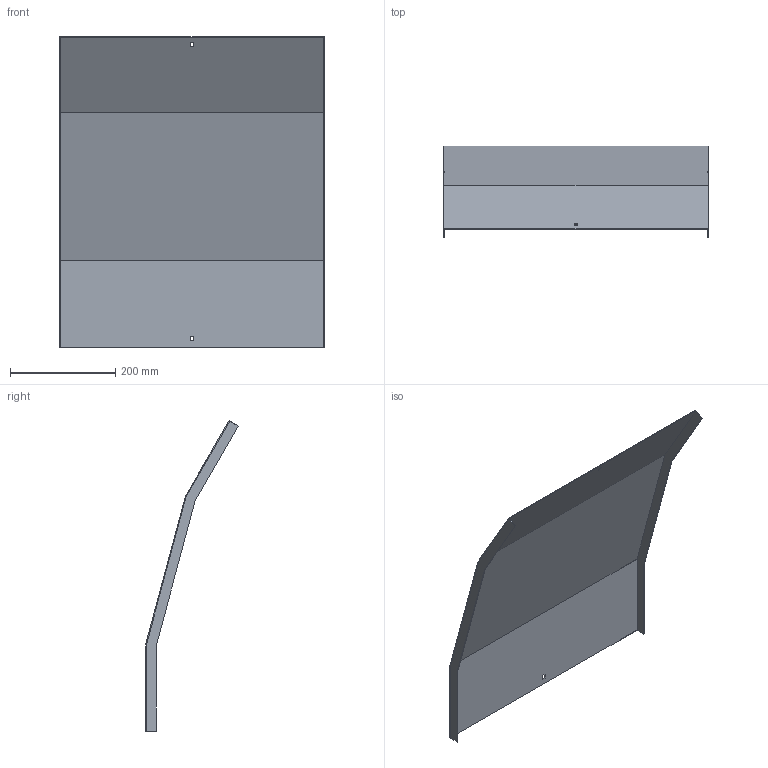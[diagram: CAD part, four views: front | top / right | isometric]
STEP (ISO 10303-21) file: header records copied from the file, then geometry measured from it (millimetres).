
FILE_DESCRIPTION (( 'STEP AP214' ), '1' );
FILE_NAME ('35N5D500.step', '2025-02-21T10:29:11', ( '' ), ( '' ), 'SwSTEP 2.0', 'SolidWorks 2023', '' );
FILE_SCHEMA (( 'AUTOMOTIVE_DESIGN' ));
Length unit declared in the file: millimetre
Products named in the file (1): 35N5D500
Bounding box: 503 x 175.26 x 589.45 mm (x, y, z)
Volume: 502653.4 mm3; surface area: 673751.7 mm2
Topology: 1 solids, 1 shells, 26 faces, 72 edges, 48 vertices
Faces by surface type: plane 26
Entity records: 847 total; most frequent: CARTESIAN_POINT 147, ORIENTED_EDGE 144, DIRECTION 126, VECTOR 72, EDGE_CURVE 72, LINE 72, VERTEX_POINT 48, EDGE_LOOP 30
